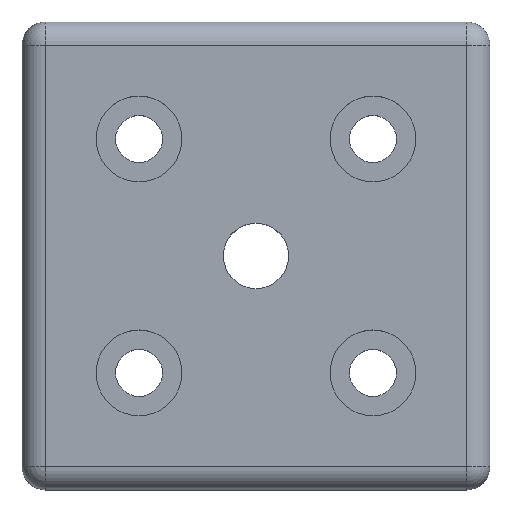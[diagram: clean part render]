
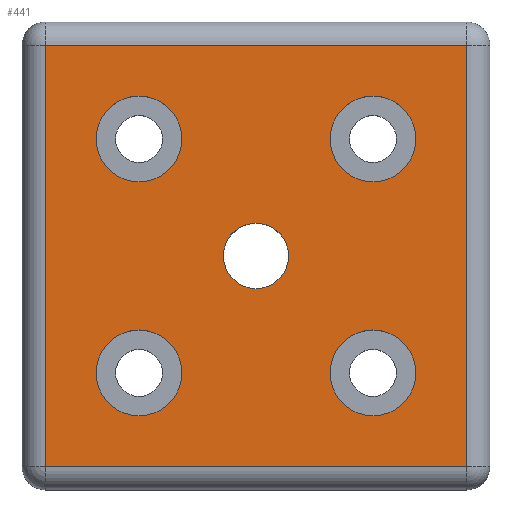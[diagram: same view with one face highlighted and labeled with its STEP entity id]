
A CAD part, top view. The second image highlights one B-rep face of the part: STEP entity #441.
In plain terms, the highlighted planar face has unit normal (0, 0, 1).
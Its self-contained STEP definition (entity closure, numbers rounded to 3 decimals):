
#32=CIRCLE('',#494,5.5);
#33=CIRCLE('',#495,5.5);
#34=CIRCLE('',#496,5.5);
#35=CIRCLE('',#497,5.5);
#36=CIRCLE('',#498,4.188);
#107=ORIENTED_EDGE('',*,*,#207,.T.);
#108=ORIENTED_EDGE('',*,*,#208,.T.);
#109=ORIENTED_EDGE('',*,*,#209,.T.);
#110=ORIENTED_EDGE('',*,*,#210,.T.);
#111=ORIENTED_EDGE('',*,*,#211,.T.);
#112=ORIENTED_EDGE('',*,*,#212,.T.);
#113=ORIENTED_EDGE('',*,*,#213,.T.);
#114=ORIENTED_EDGE('',*,*,#214,.T.);
#115=ORIENTED_EDGE('',*,*,#215,.T.);
#207=EDGE_CURVE('',#253,#253,#32,.T.);
#208=EDGE_CURVE('',#254,#254,#33,.T.);
#209=EDGE_CURVE('',#255,#255,#34,.T.);
#210=EDGE_CURVE('',#256,#256,#35,.T.);
#211=EDGE_CURVE('',#257,#257,#36,.T.);
#212=EDGE_CURVE('',#258,#259,#291,.T.);
#213=EDGE_CURVE('',#259,#260,#292,.T.);
#214=EDGE_CURVE('',#260,#261,#293,.T.);
#215=EDGE_CURVE('',#261,#258,#294,.T.);
#253=VERTEX_POINT('',#745);
#254=VERTEX_POINT('',#747);
#255=VERTEX_POINT('',#749);
#256=VERTEX_POINT('',#751);
#257=VERTEX_POINT('',#753);
#258=VERTEX_POINT('',#755);
#259=VERTEX_POINT('',#756);
#260=VERTEX_POINT('',#758);
#261=VERTEX_POINT('',#760);
#291=LINE('',#754,#311);
#292=LINE('',#757,#312);
#293=LINE('',#759,#313);
#294=LINE('',#761,#314);
#311=VECTOR('',#604,1000.);
#312=VECTOR('',#605,1000.);
#313=VECTOR('',#606,1000.);
#314=VECTOR('',#607,1000.);
#323=EDGE_LOOP('',(#107));
#324=EDGE_LOOP('',(#108));
#325=EDGE_LOOP('',(#109));
#326=EDGE_LOOP('',(#110));
#327=EDGE_LOOP('',(#111));
#328=EDGE_LOOP('',(#112,#113,#114,#115));
#377=FACE_BOUND('',#323,.T.);
#378=FACE_BOUND('',#324,.T.);
#379=FACE_BOUND('',#325,.T.);
#380=FACE_BOUND('',#326,.T.);
#381=FACE_BOUND('',#327,.T.);
#382=FACE_BOUND('',#328,.T.);
#427=PLANE('',#493);
#441=ADVANCED_FACE('',(#377,#378,#379,#380,#381,#382),#427,.T.);
#493=AXIS2_PLACEMENT_3D('',#743,#592,#593);
#494=AXIS2_PLACEMENT_3D('',#744,#594,#595);
#495=AXIS2_PLACEMENT_3D('',#746,#596,#597);
#496=AXIS2_PLACEMENT_3D('',#748,#598,#599);
#497=AXIS2_PLACEMENT_3D('',#750,#600,#601);
#498=AXIS2_PLACEMENT_3D('',#752,#602,#603);
#592=DIRECTION('',(0.,0.,1.));
#593=DIRECTION('',(1.,0.,0.));
#594=DIRECTION('',(0.,0.,-1.));
#595=DIRECTION('',(-1.,0.,0.));
#596=DIRECTION('',(0.,0.,-1.));
#597=DIRECTION('',(-1.,0.,0.));
#598=DIRECTION('',(0.,0.,-1.));
#599=DIRECTION('',(-1.,0.,0.));
#600=DIRECTION('',(0.,0.,-1.));
#601=DIRECTION('',(-1.,0.,0.));
#602=DIRECTION('',(0.,0.,-1.));
#603=DIRECTION('',(-1.,0.,0.));
#604=DIRECTION('',(0.,1.,0.));
#605=DIRECTION('',(-1.,0.,0.));
#606=DIRECTION('',(0.,-1.,0.));
#607=DIRECTION('',(1.,0.,0.));
#743=CARTESIAN_POINT('',(-27.,-27.,12.));
#744=CARTESIAN_POINT('',(-15.,15.,12.));
#745=CARTESIAN_POINT('',(-20.5,15.,12.));
#746=CARTESIAN_POINT('',(15.,-15.,12.));
#747=CARTESIAN_POINT('',(9.5,-15.,12.));
#748=CARTESIAN_POINT('',(-15.,-15.,12.));
#749=CARTESIAN_POINT('',(-20.5,-15.,12.));
#750=CARTESIAN_POINT('',(15.,15.,12.));
#751=CARTESIAN_POINT('',(9.5,15.,12.));
#752=CARTESIAN_POINT('',(0.,0.,12.));
#753=CARTESIAN_POINT('',(-4.188,0.,12.));
#754=CARTESIAN_POINT('',(27.,27.,12.));
#755=CARTESIAN_POINT('',(27.,-27.,12.));
#756=CARTESIAN_POINT('',(27.,27.,12.));
#757=CARTESIAN_POINT('',(-27.,27.,12.));
#758=CARTESIAN_POINT('',(-27.,27.,12.));
#759=CARTESIAN_POINT('',(-27.,-27.,12.));
#760=CARTESIAN_POINT('',(-27.,-27.,12.));
#761=CARTESIAN_POINT('',(27.,-27.,12.));
